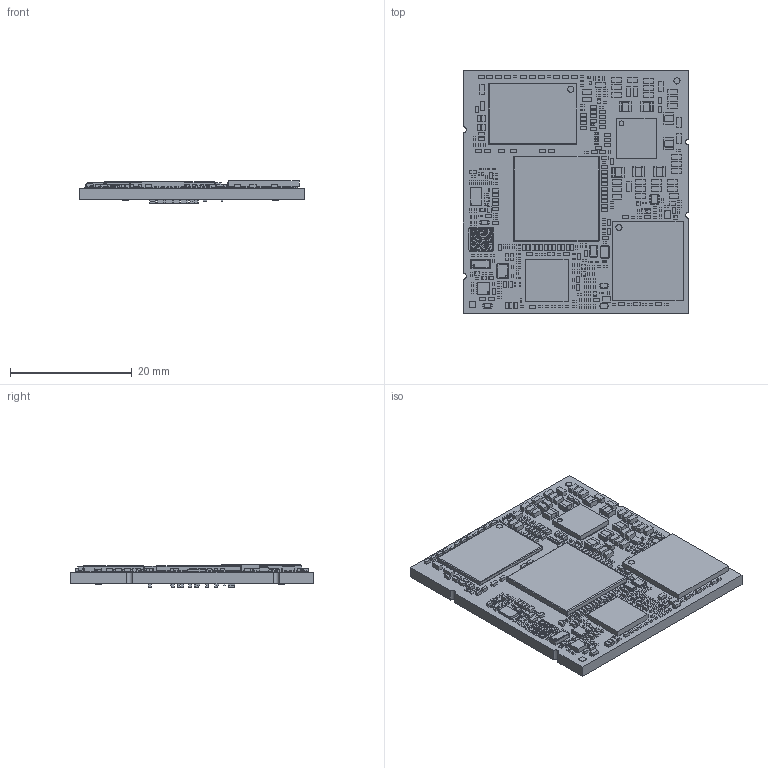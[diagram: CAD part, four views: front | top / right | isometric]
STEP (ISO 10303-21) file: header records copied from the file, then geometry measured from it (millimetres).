
FILE_DESCRIPTION(('FreeCAD Model'),'2;1');
FILE_NAME('C:/Users/Blos/Desktop/1633-1.step','2025-12-08T10:23:49',( 'FreeCAD'),('FreeCAD'),'Open CASCADE STEP processor 6.3','FreeCAD', 'Unknown');
FILE_SCHEMA(('AUTOMOTIVE_DESIGN_CC2 { 1 2 10303 214 -1 1 5 4 }'));
Length unit declared in the file: millimetre
Products named in the file (911): OSC923; OSC924; FLASH412; FLASH414; FLASH413; FLASH415; FLASH416; FLASH418; FLASH417; FLASH419; FLASH421; FLASH420; FLASH422; FLASH423; FLASH424; FLASH425; FLASH426; RC0603F1005CS046; C0402C270F5GAC_088; 0201YC101KAZ2A038; RC0603F1005CS047; RC0603F1005CS048; C0402C270F5GAC_089; RC0603F1005CS049; TRANSISTOR962; TRANSISTOR964; TRANSISTOR963; TRANSISTOR965; TRANSISTOR966; GMC10X7R104K100NT022; C0402C270F5GAC_090; C0402C270F5GAC_091; 0201YC101KAZ2A039; RC0603F1005CS050; RC0603F1005CS051; JUMP358; JUMP359; 0201YC101KAZ2A040; JUMP360; RC0603F1005CS052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
Bounding box: 37 x 40 x 3.66 mm (x, y, z)
Volume: 3442.7 mm3; surface area: 5916.1 mm2
Topology: 911 solids, 911 shells, 7155 faces, 17405 edges, 11246 vertices
Faces by surface type: plane 5441, sphere 898, cylinder 784, torus 20, revolution 8, bspline 4
Full cylindrical faces by diameter (mm): 0.25 x1, 0.812 x1
Entity records: 540959 total; most frequent: CARTESIAN_POINT 150210, DIRECTION 58970, LINE 37062, VECTOR 37062, ORIENTED_EDGE 33014, PCURVE 33014, DEFINITIONAL_REPRESENTATION 33014, EDGE_CURVE 16507
